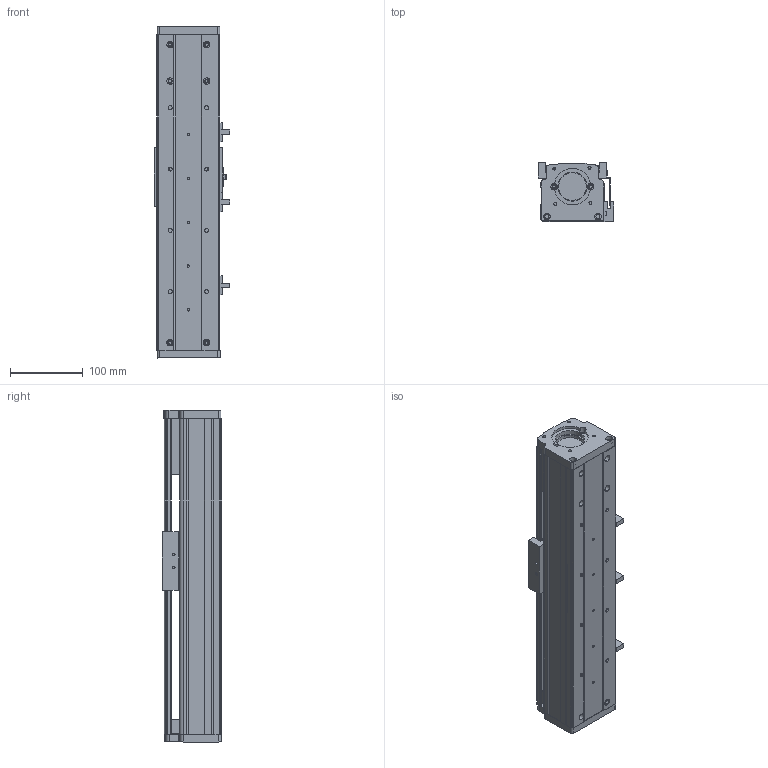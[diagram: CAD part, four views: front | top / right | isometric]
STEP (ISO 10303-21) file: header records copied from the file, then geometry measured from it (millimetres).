
FILE_DESCRIPTION (( 'STEP AP214' ), '1' );
FILE_NAME ('CF86-C-200-FW.STEP', '2020-01-15T07:52:09', ( '微软用户' ), ( '微软中国' ), 'SwSTEP 2.0', 'SolidWorks 2016', '' );
FILE_SCHEMA (( 'AUTOMOTIVE_DESIGN' ));
Length unit declared in the file: millimetre
Products named in the file (12): 嫖萇羲壽; 75-86-95癹弇羲壽覜茼え; 86-60侜督萇儂釱(蜊輛); CF86賑輸; 02 86盓傅釱; 01 86嘐隅釱; EGW15CA賑輸; EGR15絳寢-200; 86臏倰第-200; 86裔啣-200; 86耜啣; CF86-C-200-FW
Assembly tree (13 placements, depth 2):
  CF86-C-200-FW
    86耜啣
    86裔啣-200
    86臏倰第-200
    EGR15絳寢-200
    EGW15CA賑輸
    01 86嘐隅釱
    02 86盓傅釱
    CF86賑輸
    86-60侜督萇儂釱(蜊輛)
    75-86-95癹弇羲壽覜茼え
    嫖萇羲壽  x3
Bounding box: 103.85 x 81 x 455 mm (x, y, z)
Volume: 1469068.2 mm3; surface area: 453708.8 mm2
Topology: 13 solids, 13 shells, 646 faces, 1732 edges, 1152 vertices
Faces by surface type: plane 351, cylinder 295
Entity records: 20502 total; most frequent: CARTESIAN_POINT 3474, DIRECTION 3350, ORIENTED_EDGE 3176, EDGE_CURVE 1588, AXIS2_PLACEMENT_3D 1188, VERTEX_POINT 1056, VECTOR 974, LINE 974
